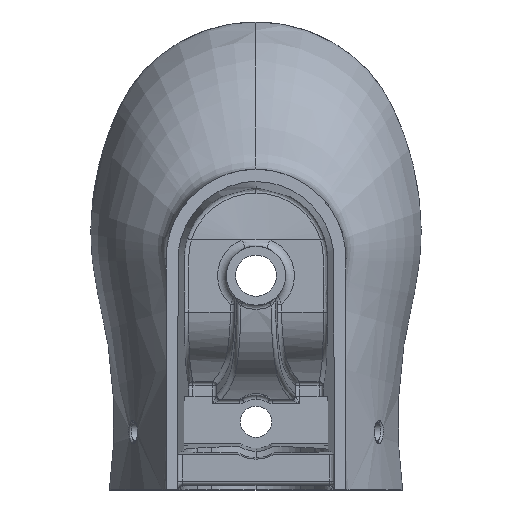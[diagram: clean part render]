
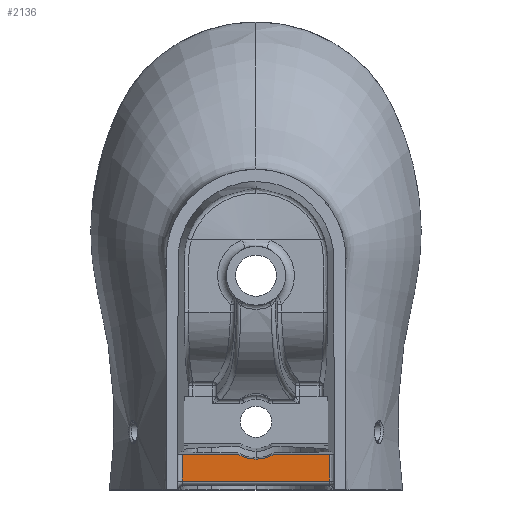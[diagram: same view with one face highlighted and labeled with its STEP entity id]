
A CAD part, front view. The second image highlights one B-rep face of the part: STEP entity #2136.
In plain terms, the highlighted planar face has unit normal (0, -1, 0).
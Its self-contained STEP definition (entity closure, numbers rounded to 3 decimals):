
#96 = DIRECTION ( 'NONE',  ( 0., 1., 0. ) ) ;
#174 = VERTEX_POINT ( 'NONE', #21078 ) ;
#431 = DIRECTION ( 'NONE',  ( 1., 0., 0. ) ) ;
#915 = CARTESIAN_POINT ( 'NONE',  ( -82.535, -354., 40. ) ) ;
#1591 = EDGE_CURVE ( 'NONE', #2470, #174, #16957, .T. ) ;
#1598 = VERTEX_POINT ( 'NONE', #15410 ) ;
#1838 = VECTOR ( 'NONE', #20449, 1000. ) ;
#1900 = CARTESIAN_POINT ( 'NONE',  ( 0., -354., 76.486 ) ) ;
#1942 = VERTEX_POINT ( 'NONE', #23002 ) ;
#2136 = ADVANCED_FACE ( 'NONE', ( #7144 ), #3333, .T. ) ;
#2236 = DIRECTION ( 'NONE',  ( 0., -1., 0. ) ) ;
#2470 = VERTEX_POINT ( 'NONE', #9765 ) ;
#2982 = B_SPLINE_CURVE_WITH_KNOTS ( 'NONE', 3,
 ( #5205, #16248, #17690, #5445, #23301, #3531, #10852 ),
 .UNSPECIFIED., .F., .F.,
 ( 4, 3, 4 ),
 ( 0., 0.01, 0.03 ),
 .UNSPECIFIED. ) ;
#3035 = CARTESIAN_POINT ( 'NONE',  ( -82.535, -354., 30. ) ) ;
#3333 = PLANE ( 'NONE',  #15564 ) ;
#3531 = CARTESIAN_POINT ( 'NONE',  ( 82.535, -354., 16.667 ) ) ;
#5205 = CARTESIAN_POINT ( 'NONE',  ( 82.535, -354., 40. ) ) ;
#5445 = CARTESIAN_POINT ( 'NONE',  ( 82.535, -354., 30. ) ) ;
#5642 = CIRCLE ( 'NONE', #19048, 41.943 ) ;
#6078 = EDGE_CURVE ( 'NONE', #19682, #15508, #20928, .T. ) ;
#6674 = DIRECTION ( 'NONE',  ( 0., 1., 0. ) ) ;
#6800 = CARTESIAN_POINT ( 'NONE',  ( 0., -354., 76.486 ) ) ;
#6801 = VERTEX_POINT ( 'NONE', #21871 ) ;
#7144 = FACE_OUTER_BOUND ( 'NONE', #10661, .T. ) ;
#8203 = LINE ( 'NONE', #19124, #16763 ) ;
#8769 = CARTESIAN_POINT ( 'NONE',  ( -82.535, -354., 10. ) ) ;
#8888 = CARTESIAN_POINT ( 'NONE',  ( -82.535, -354., 16.667 ) ) ;
#9481 = AXIS2_PLACEMENT_3D ( 'NONE', #1900, #96, #19127 ) ;
#9765 = CARTESIAN_POINT ( 'NONE',  ( 20.689, -354., 40. ) ) ;
#9767 = CARTESIAN_POINT ( 'NONE',  ( 0., -354., 40. ) ) ;
#10661 = EDGE_LOOP ( 'NONE', ( #12735, #20147, #10925, #17507, #13760, #19450, #12574 ) ) ;
#10852 = CARTESIAN_POINT ( 'NONE',  ( 82.535, -354., 10. ) ) ;
#10925 = ORIENTED_EDGE ( 'NONE', *, *, #1591, .F. ) ;
#10946 = EDGE_CURVE ( 'NONE', #1942, #19682, #15074, .T. ) ;
#12327 = DIRECTION ( 'NONE',  ( 0., 0., -1. ) ) ;
#12486 = CARTESIAN_POINT ( 'NONE',  ( -82.535, -354., 36.667 ) ) ;
#12516 = CARTESIAN_POINT ( 'NONE',  ( -82.535, -354., 10. ) ) ;
#12574 = ORIENTED_EDGE ( 'NONE', *, *, #6078, .T. ) ;
#12735 = ORIENTED_EDGE ( 'NONE', *, *, #18834, .T. ) ;
#13760 = ORIENTED_EDGE ( 'NONE', *, *, #19566, .T. ) ;
#14179 = CARTESIAN_POINT ( 'NONE',  ( -82.535, -354., 40. ) ) ;
#15074 = LINE ( 'NONE', #22357, #1838 ) ;
#15410 = CARTESIAN_POINT ( 'NONE',  ( 0., -354., 34.543 ) ) ;
#15508 = VERTEX_POINT ( 'NONE', #12516 ) ;
#15564 = AXIS2_PLACEMENT_3D ( 'NONE', #18633, #2236, #12327 ) ;
#15899 = EDGE_CURVE ( 'NONE', #174, #6801, #2982, .T. ) ;
#16248 = CARTESIAN_POINT ( 'NONE',  ( 82.535, -354., 36.667 ) ) ;
#16763 = VECTOR ( 'NONE', #21027, 1000. ) ;
#16957 = LINE ( 'NONE', #9767, #22025 ) ;
#17507 = ORIENTED_EDGE ( 'NONE', *, *, #20989, .T. ) ;
#17690 = CARTESIAN_POINT ( 'NONE',  ( 82.535, -354., 33.333 ) ) ;
#18119 = CARTESIAN_POINT ( 'NONE',  ( -82.535, -354., 23.333 ) ) ;
#18633 = CARTESIAN_POINT ( 'NONE',  ( 0., -354., 145.119 ) ) ;
#18834 = EDGE_CURVE ( 'NONE', #15508, #6801, #8203, .T. ) ;
#19048 = AXIS2_PLACEMENT_3D ( 'NONE', #6800, #6674, #21189 ) ;
#19124 = CARTESIAN_POINT ( 'NONE',  ( 0., -354., 10. ) ) ;
#19127 = DIRECTION ( 'NONE',  ( 0., 0., -1. ) ) ;
#19450 = ORIENTED_EDGE ( 'NONE', *, *, #10946, .T. ) ;
#19566 = EDGE_CURVE ( 'NONE', #1598, #1942, #23628, .T. ) ;
#19682 = VERTEX_POINT ( 'NONE', #915 ) ;
#20147 = ORIENTED_EDGE ( 'NONE', *, *, #15899, .F. ) ;
#20449 = DIRECTION ( 'NONE',  ( -1., 0., 0. ) ) ;
#20928 = B_SPLINE_CURVE_WITH_KNOTS ( 'NONE', 3,
 ( #14179, #12486, #21458, #3035, #18119, #8888, #8769 ),
 .UNSPECIFIED., .F., .F.,
 ( 4, 3, 4 ),
 ( 0., 0.01, 0.03 ),
 .UNSPECIFIED. ) ;
#20989 = EDGE_CURVE ( 'NONE', #2470, #1598, #5642, .T. ) ;
#21027 = DIRECTION ( 'NONE',  ( 1., 0., 0. ) ) ;
#21078 = CARTESIAN_POINT ( 'NONE',  ( 82.535, -354., 40. ) ) ;
#21189 = DIRECTION ( 'NONE',  ( 0., 0., -1. ) ) ;
#21458 = CARTESIAN_POINT ( 'NONE',  ( -82.535, -354., 33.333 ) ) ;
#21871 = CARTESIAN_POINT ( 'NONE',  ( 82.535, -354., 10. ) ) ;
#22025 = VECTOR ( 'NONE', #431, 1000. ) ;
#22357 = CARTESIAN_POINT ( 'NONE',  ( 0., -354., 40. ) ) ;
#23002 = CARTESIAN_POINT ( 'NONE',  ( -20.689, -354., 40. ) ) ;
#23301 = CARTESIAN_POINT ( 'NONE',  ( 82.535, -354., 23.333 ) ) ;
#23628 = CIRCLE ( 'NONE', #9481, 41.943 ) ;
